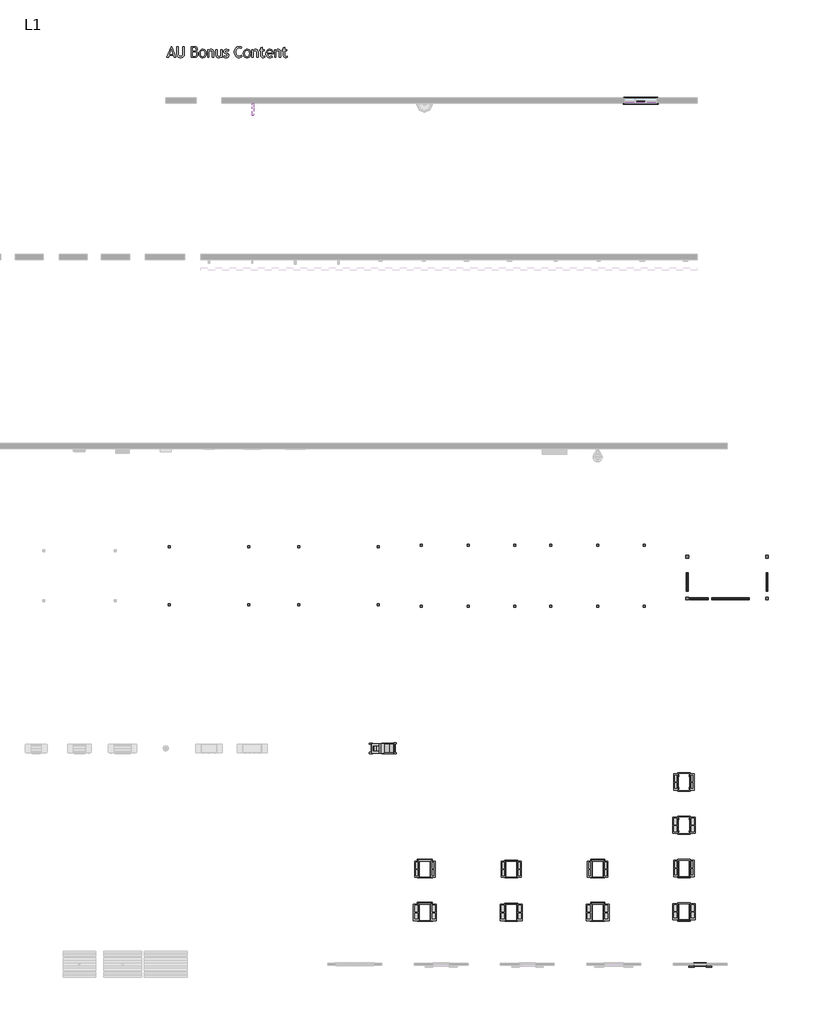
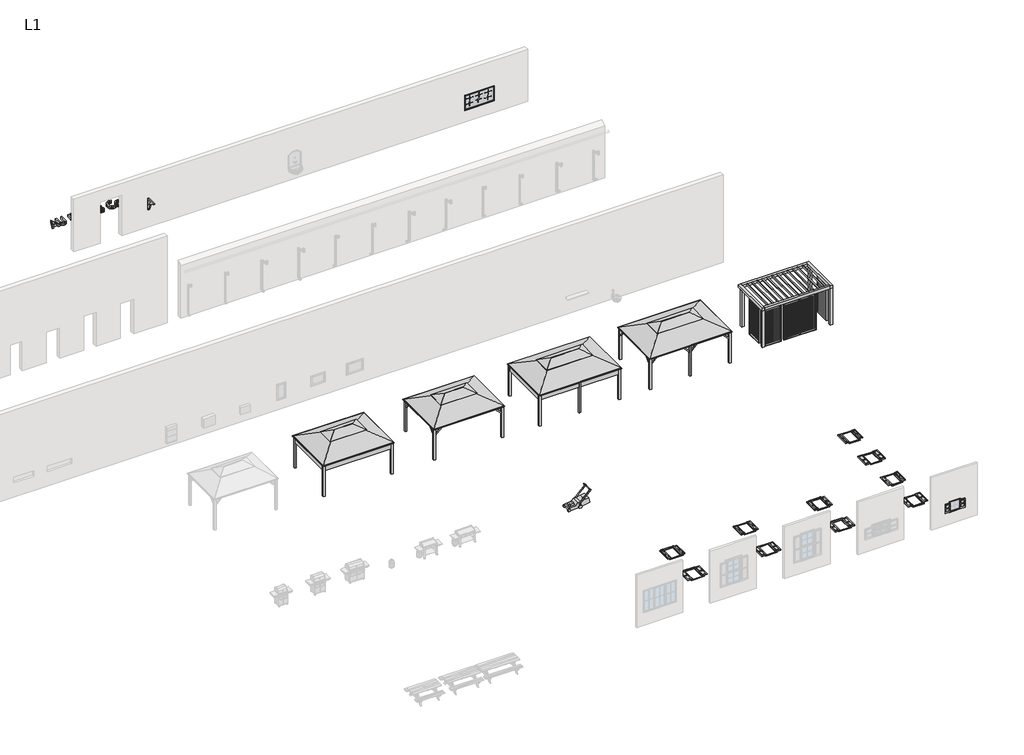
# One storey, part 3 of 3: 27 proxies, 1 geographic element.
"""IFC4 building model written with IfcOpenShell, lengths in millimetres."""

from ifc_helpers import new_model, si_unit, origin, origin_with_axes, place, context, project, spatial, polyline, outline, extrude, transform, mapped, element, save
from components import generic_models_1c49636c, generic_models_a0dbac26, proxy_d6f00f2b, proxy_496701cc, corbel2_corbel2_907cff46, manual_width_d89d13d8, manual_width_5ed0646b, muntin_pattern_2x2_muntin_pattern_2x2_6dbbc680, muntin_pattern_2x2_muntin_pattern_2x2_7c8e65e2, pergola_modern_pergola_2576f8b5, shutters_trim_window_exterior_brick_mould_colonial_manual_04c3bd9f, shutters_trim_window_exterior_brick_mould_colonial_standard_74fb2969, shutters_trim_window_exterior_flat_picture_frame_a63c4597, shutters_trim_window_exterior_flat_picture_frame_manual_0c29e27e, shutters_trim_window_exterior_flat_with_sill_dd266633, shutters_trim_window_exterior_flat_with_sill_b35a88a1, shutters_trim_window_exterior_flat_with_sill_manual_width_7cc3b3d1, standard_f57f7093, standard_7dc51323, trim_window_exterior_flat_with_sill_3c945769, trim_window_interior_flat_picture_frame_0edfbaa2, trim_window_interior_flat1_picture_frame_cb1a8cf6, geographic_element_e14939d7

model = new_model("IFC4")

# Units and contexts
model_context = context("Model", 3, world=origin())
ifc_project = project(units=[si_unit("LENGTHUNIT", "METRE", prefix="MILLI")], contexts=[model_context])

# Site, building, storey
site = spatial("IfcSite", under=ifc_project)
building = spatial("IfcBuilding", under=site)
storey = spatial("IfcBuildingStorey", under=building, Name="L1", Elevation=0.0)

# Proxies
placement = place(None, origin())
element("IfcBuildingElementProxy", 1, Name="24\" Trebuchet MS", ObjectType="24\" Trebuchet MS", at=placement, inside=storey, context=model_context, shape_type="SweptSolid", body=[
    extrude(outline(polyline([(2042.8025535, 25700.183374), (2000.693888, 25828.0073074), (1777.3348793, 25828.0073074), (1733.8947144, 25700.183374), (1638.0267644, 25700.183374), (1883.0226368, 26317.9990522), (1904.3266257, 26317.9990522), (2138.6705036, 25700.183374), (2042.8025535, 25700.183374)]), holes=[polyline([(1888.348634, 26158.2191354), (1798.6388682, 25891.9192741), (1976.8933379, 25891.9192741), (1888.348634, 26158.2191354)])]), origin_with_axes(), (0.0, 0.0, 1.0), 152.4),
    extrude(outline(polyline([(2202.5824703, 26307.3470577), (2287.7984259, 26307.3470577), (2287.7984259, 25891.4199618), (2289.9621123, 25864.8575909), (2296.4531714, 25840.7605742), (2307.2716033, 25819.1289116), (2322.4174079, 25799.9626032), (2341.1208122, 25784.2706759), (2362.6120432, 25773.0621563), (2386.8911009, 25766.3370446), (2413.9579852, 25764.0953407), (2442.4811969, 25766.2746305), (2467.8004884, 25772.8125002), (2489.9158597, 25783.7089496), (2508.8273108, 25798.9639788), (2523.9731154, 25817.943045), (2534.7915473, 25840.0116058), (2541.2826064, 25865.1696611), (2543.4462928, 25893.4172108), (2543.4462928, 26307.3470577), (2628.6622484, 26307.3470577), (2628.6622484, 25884.7624653), (2625.0734416, 25841.2702887), (2614.3070215, 25802.8336486), (2596.3629879, 25769.4525449), (2571.2413408, 25741.1269776), (2539.9303024, 25718.5539035), (2503.4180949, 25702.430279), (2461.7047182, 25692.7561044), (2414.7901723, 25689.5313795), (2366.7105645, 25692.6936904), (2324.4978756, 25702.1806229), (2288.1521054, 25717.9921772), (2257.6732541, 25740.1283532), (2233.5710362, 25768.1730573), (2216.3551663, 25801.7101961), (2206.0256443, 25840.7397695), (2202.5824703, 25885.2617776), (2202.5824703, 26307.3470577)])), origin_with_axes(), (0.0, 0.0, 1.0), 152.4),
    extrude(outline(polyline([(3184.7296462, 25700.183374), (3012.1340486, 25700.183374), (3012.1340486, 26312.6730549), (3173.2454647, 26317.9990522), (3216.113501, 26315.564905), (3253.8427821, 26308.2624635), (3286.4333081, 26296.0917276), (3313.885079, 26279.0526974), (3335.6571731, 26257.4782477), (3351.2086689, 26231.7012534), (3360.5395664, 26201.7217143), (3363.6498655, 26167.5396305), (3361.574599, 26146.7869655), (3355.3487995, 26126.970511), (3344.9724671, 26108.090267), (3330.4456016, 26090.1462333), (3295.5145495, 26061.727045), (3276.7539323, 26052.4169522), (3257.129921, 26046.3731936), (3290.8699054, 26036.116488), (3319.6895837, 26022.9887371), (3343.5889561, 26006.9899407), (3362.5680223, 25988.120099), (3377.0220715, 25965.9735207), (3387.3463923, 25940.1445146), (3393.5409847, 25910.6330807), (3395.6058489, 25877.4392191), (3391.9546281, 25839.0389872), (3381.0009659, 25804.7268742), (3362.7448621, 25774.5028802), (3337.1863168, 25748.3670051), (3305.7504504, 25727.2866665), (3269.8623831, 25712.2292817), (3229.5221151, 25703.1948509), (3184.7296462, 25700.183374)]), holes=[polyline([(3097.3500042, 26243.435091), (3097.3500042, 26075.499741), (3161.5948458, 26073.0031798), (3188.9790014, 26074.4439036), (3212.7119363, 26078.7660752), (3232.7936505, 26085.9696945), (3249.2241439, 26096.0547615), (3262.0034165, 26109.0212762), (3271.1314684, 26124.8692387), (3276.6082995, 26143.5986489), (3278.4339099, 26165.2095067), (3276.7565329, 26184.2067771), (3271.7244017, 26200.6710781), (3263.3375164, 26214.6024097), (3251.595877, 26226.0007719), (3236.4994835, 26234.8661648), (3218.0483359, 26241.1985882), (3171.0817783, 26246.264527), (3097.3500042, 26243.435091)]), polyline([(3097.3500042, 26007.0939641), (3097.3500042, 25768.256276), (3162.2605954, 25764.0953407), (3198.1954732, 25765.9781639), (3228.9395841, 25771.6266336), (3254.4929283, 25781.0407498), (3274.8555055, 25794.2205125), (3290.4018002, 25811.5091988), (3301.5062963, 25833.2500859), (3308.168994, 25859.4431738), (3310.3898933, 25890.0884625), (3308.2730174, 25918.5544614), (3301.9223899, 25943.0363646), (3291.3380106, 25963.5341723), (3276.5198797, 25980.0478844), (3256.7502357, 25992.7543407), (3231.3113173, 26001.8303809), (3200.2031245, 26007.276005), (3163.4256573, 26009.0912131), (3097.3500042, 26007.0939641)])]), origin_with_axes(), (0.0, 0.0, 1.0), 152.4),
    extrude(outline(polyline([(3459.5178156, 25924.8738819), (3463.0025989, 25974.6958814), (3473.456949, 26019.4727467), (3490.8808657, 26059.204478), (3515.2743491, 26093.8910751), (3545.3579115, 26122.0346015), (3579.8520654, 26142.1371203), (3618.7568108, 26154.1986316), (3662.0721476, 26158.2191354), (3707.4731532, 26154.3546667), (3747.4753453, 26142.7612606), (3782.0787238, 26123.4389172), (3811.2832886, 26096.3876363), (3834.4753019, 26062.4812145), (3851.0410257, 26022.5934482), (3860.98046, 25976.7243373), (3864.2936048, 25924.8738819), (3860.8972413, 25873.1638581), (3850.7081509, 25827.2167297), (3833.7263336, 25787.0324967), (3809.9517893, 25752.6111591), (3780.3311309, 25725.0137556), (3745.8109712, 25705.3013244), (3706.3913101, 25693.4738657), (3662.0721476, 25689.5313795), (3616.9312004, 25693.5102739), (3577.0434341, 25705.4469572), (3542.4088486, 25725.3414292), (3513.027444, 25753.1936901), (3489.6169816, 25787.7970686), (3472.8952227, 25827.9448933), (3462.8621674, 25873.6371645), (3459.5178156, 25924.8738819)]), holes=[polyline([(3544.7337712, 25924.8738819), (3546.5671833, 25884.6948501), (3552.0674197, 25849.8730225), (3561.2344804, 25820.4083992), (3574.0683653, 25796.3009801), (3590.5690745, 25777.5507653), (3610.7366079, 25764.1577547), (3634.5709656, 25756.1219483), (3662.0721476, 25753.4433462), (3687.97397, 25756.3143916), (3710.9215284, 25764.9275277), (3730.9148227, 25779.2827546), (3747.9538529, 25799.3800723), (3761.5705137, 25824.4497077), (3771.2967001, 25853.7218877), (3777.1324119, 25887.1966125), (3779.0776491, 25924.8738819), (3777.2494382, 25964.5848085), (3771.7648053, 25999.0009449), (3762.6237505, 26028.122291), (3749.8262738, 26051.948847), (3733.3723751, 26070.4806127), (3713.2620545, 26083.7175882), (3689.495312, 26091.6597736), (3662.0721476, 26094.3071687), (3636.7008444, 26091.488135), (3614.0133445, 26083.0310339), (3594.0096479, 26068.9358655), (3576.6897546, 26049.2026297), (3562.7090118, 26024.5178808), (3552.722767, 25995.5681732), (3546.7310202, 25962.3535069), (3544.7337712, 25924.8738819)])]), origin_with_axes(), (0.0, 0.0, 1.0), 152.4),
    extrude(outline(polyline([(4215.8094217, 25700.183374), (4215.8094217, 25963.986674), (4214.4207095, 25997.4718011), (4210.254573, 26025.5269076), (4203.3110122, 26048.1519935), (4193.590027, 26065.3470588), (4180.6027076, 26078.0171068), (4163.860144, 26087.0671412), (4143.3623364, 26092.4971618), (4119.1092845, 26094.3071687), (4090.4820494, 26090.1878427), (4060.523315, 26077.8298647), (4033.435626, 26059.4385306), (4013.4215271, 26037.2191359), (4013.4215271, 25700.183374), (3938.8575659, 25700.183374), (3938.8575659, 26147.5671409), (3992.6168504, 26147.5671409), (4017.5824624, 26090.1462333), (4040.0619155, 26119.928128), (4068.7203577, 26141.2009099), (4103.5577887, 26153.964579), (4144.5742088, 26158.2191354), (4178.7458902, 26155.410504), (4208.3613474, 26146.98461), (4233.4205805, 26132.9414532), (4253.9235893, 26113.2810338), (4269.870374, 26088.0033516), (4281.2609344, 26057.1084068), (4288.0952707, 26020.5961992), (4290.3733828, 25978.466729), (4290.3733828, 25700.183374), (4215.8094217, 25700.183374)])), origin_with_axes(), (0.0, 0.0, 1.0), 152.4),
    extrude(outline(polyline([(4482.109283, 26147.5671409), (4482.109283, 25858.465354), (4483.5708115, 25833.8508209), (4487.9553971, 25812.5182256), (4495.2630398, 25794.467568), (4505.4937395, 25779.6988482), (4518.6474963, 25768.2120661), (4534.7243102, 25760.0072217), (4553.7241812, 25755.0843151), (4575.6471092, 25753.4433462), (4614.718292, 25759.1646323), (4650.3775078, 25776.3284905), (4678.54704, 25800.9820324), (4695.149172, 25829.1723693), (4695.149172, 26147.5671409), (4769.7131331, 26147.5671409), (4769.7131331, 25700.183374), (4695.149172, 25700.183374), (4695.149172, 25761.7652169), (4674.8230029, 25736.404316), (4640.8073565, 25712.5829612), (4600.4254791, 25695.2942749), (4561.0006169, 25689.5313795), (4525.9811449, 25692.1839758), (4495.3202526, 25700.1417646), (4469.0179402, 25713.404746), (4447.0742075, 25731.9729199), (4429.78032, 25755.4197905), (4417.4275432, 25783.3188619), (4410.0158771, 25815.6701341), (4407.5453218, 25852.4736071), (4407.5453218, 26147.5671409), (4482.109283, 26147.5671409)])), origin_with_axes(), (0.0, 0.0, 1.0), 152.4),
    extrude(outline(polyline([(4854.9290888, 25723.4846118), (4882.0583871, 25796.051324), (4940.3114818, 25764.0953407), (4964.6945628, 25756.1063448), (4985.915333, 25753.4433462), (5017.153555, 25757.4274418), (5039.4665708, 25769.3797285), (5052.8543802, 25789.3002064), (5057.3169833, 25817.1888755), (5052.9480012, 25839.1898211), (5039.8410549, 25859.5888066), (5017.9961444, 25878.3858319), (4987.4132697, 25895.5808972), (4914.7633388, 25934.0279397), (4882.3080432, 25963.9034553), (4870.3037448, 25981.1505323), (4861.7530227, 25999.4378431), (4856.6350722, 26018.9526298), (4854.9290888, 26039.8821345), (4857.4204488, 26066.2312575), (4864.8945289, 26089.522093), (4877.351329, 26109.7546411), (4894.7908492, 26126.9289017), (4916.2456721, 26140.6183789), (4940.74838, 26150.396577), (4968.2989731, 26156.2634958), (4998.8974513, 26158.2191354), (5024.7056527, 26156.2530934), (5053.6969696, 26150.3549676), (5121.22895, 26126.7624643), (5099.0927741, 26051.6991909), (5075.9267666, 26070.3401812), (5052.6983451, 26083.6551742), (5029.4075096, 26091.6441701), (5006.05426, 26094.3071687), (4980.4437031, 26090.8535923), (4959.2021282, 26080.4928634), (4944.9093153, 26064.8893559), (4940.1450444, 26045.707444), (4943.1513201, 26024.8403533), (4952.1701475, 26006.6778706), (4967.2015264, 25991.2199958), (4988.2454568, 25978.466729), (5044.1684277, 25951.6703055), (5088.607217, 25925.8517017), (5119.0652637, 25896.6627404), (5129.3323716, 25880.2530516), (5136.6660201, 25861.8981257), (5142.532939, 25819.3525619), (5139.9375555, 25790.548487), (5132.1514053, 25765.0523558), (5119.1744882, 25742.8641681), (5101.0068043, 25723.9839241), (5078.2308846, 25708.9109358), (5051.4292598, 25698.1445156), (5020.6019302, 25691.6846635), (4985.7488956, 25689.5313795), (4951.4835932, 25691.6534565), (4918.2585245, 25698.0196876), (4886.0736897, 25708.6300727), (4854.9290888, 25723.4846118)])), origin_with_axes(), (0.0, 0.0, 1.0), 152.4),
    extrude(outline(polyline([(5877.5205561, 26286.0430688), (5848.7268836, 26214.8078559), (5825.217599, 26227.3322713), (5795.7997862, 26236.2782822), (5760.4734452, 26241.6458888), (5719.2385761, 26243.435091), (5679.9281395, 26239.1285229), (5644.7162242, 26226.2088187), (5613.6028303, 26204.6759784), (5586.5879577, 26174.5300019), (5564.7430472, 26137.5912985), (5549.1395397, 26095.6802773), (5539.7774352, 26048.7969385), (5536.6567337, 25996.9412819), (5539.8190445, 25947.4729619), (5549.3059771, 25902.924948), (5565.1175313, 25863.2972402), (5587.2537073, 25828.5898383), (5614.393408, 25800.3734956), (5645.2155365, 25780.2189651), (5679.7200927, 25768.1262468), (5717.9070768, 25764.0953407), (5759.0691295, 25768.0794362), (5795.1756459, 25780.031723), (5826.2266258, 25799.9522009), (5852.2220693, 25827.84087), (5898.824545, 25764.0953407), (5859.6597412, 25731.4736077), (5815.2313542, 25708.1723698), (5765.539384, 25694.1916271), (5710.5838306, 25689.5313795), (5653.532206, 25694.8989861), (5602.8780195, 25711.0018058), (5558.621271, 25737.8398387), (5520.7619607, 25775.4130848), (5490.4339433, 25821.7763067), (5468.7710737, 25874.9842673), (5455.773352, 25935.0369665), (5451.440778, 26001.9344043), (5456.1062268, 26067.0530422), (5470.102573, 26126.4295894), (5493.4298167, 26180.0640459), (5526.0879579, 26227.9564116), (5566.1317593, 26267.3500668), (5611.6159837, 26295.488392), (5662.540631, 26312.3713871), (5718.9057012, 26317.9990522), (5766.8292739, 26316.0018032), (5809.2396073, 26310.0100563), (5846.1367014, 26300.0238115), (5877.5205561, 26286.0430688)])), origin_with_axes(), (0.0, 0.0, 1.0), 152.4),
    extrude(outline(polyline([(5962.7365117, 25924.8738819), (5966.2212951, 25974.6958814), (5976.6756451, 26019.4727467), (5994.0995618, 26059.204478), (6018.4930452, 26093.8910751), (6048.5766076, 26122.0346015), (6083.0707615, 26142.1371203), (6121.9755069, 26154.1986316), (6165.2908437, 26158.2191354), (6210.6918494, 26154.3546667), (6250.6940414, 26142.7612606), (6285.2974199, 26123.4389172), (6314.5019847, 26096.3876363), (6337.6939981, 26062.4812145), (6354.2597219, 26022.5934482), (6364.1991561, 25976.7243373), (6367.5123009, 25924.8738819), (6364.1159374, 25873.1638581), (6353.926847, 25827.2167297), (6336.9450297, 25787.0324967), (6313.1704854, 25752.6111591), (6283.549827, 25725.0137556), (6249.0296673, 25705.3013244), (6209.6100062, 25693.4738657), (6165.2908437, 25689.5313795), (6120.1498965, 25693.5102739), (6080.2621302, 25705.4469572), (6045.6275447, 25725.3414292), (6016.2461401, 25753.1936901), (5992.8356777, 25787.7970686), (5976.1139188, 25827.9448933), (5966.0808635, 25873.6371645), (5962.7365117, 25924.8738819)]), holes=[polyline([(6047.9524673, 25924.8738819), (6049.7858795, 25884.6948501), (6055.2861159, 25849.8730225), (6064.4531765, 25820.4083992), (6077.2870614, 25796.3009801), (6093.7877706, 25777.5507653), (6113.9553041, 25764.1577547), (6137.7896618, 25756.1219483), (6165.2908437, 25753.4433462), (6191.1926662, 25756.3143916), (6214.1402245, 25764.9275277), (6234.1335188, 25779.2827546), (6251.172549, 25799.3800723), (6264.7892099, 25824.4497077), (6274.5153962, 25853.7218877), (6280.351108, 25887.1966125), (6282.2963453, 25924.8738819), (6280.4681343, 25964.5848085), (6274.9835014, 25999.0009449), (6265.8424466, 26028.122291), (6253.0449699, 26051.948847), (6236.5910712, 26070.4806127), (6216.4807506, 26083.7175882), (6192.7140081, 26091.6597736), (6165.2908437, 26094.3071687), (6139.9195405, 26091.488135), (6117.2320406, 26083.0310339), (6097.228344, 26068.9358655), (6079.9084507, 26049.2026297), (6065.927708, 26024.5178808), (6055.9414632, 25995.5681732), (6049.9497163, 25962.3535069), (6047.9524673, 25924.8738819)])]), origin_with_axes(), (0.0, 0.0, 1.0), 152.4),
    extrude(outline(polyline([(6719.0281178, 25700.183374), (6719.0281178, 25963.986674), (6717.6394056, 25997.4718011), (6713.4732691, 26025.5269076), (6706.5297083, 26048.1519935), (6696.8087231, 26065.3470588), (6683.8214037, 26078.0171068), (6667.0788402, 26087.0671412), (6646.5810325, 26092.4971618), (6622.3279807, 26094.3071687), (6593.7007456, 26090.1878427), (6563.7420112, 26077.8298647), (6536.6543222, 26059.4385306), (6516.6402232, 26037.2191359), (6516.6402232, 25700.183374), (6442.076262, 25700.183374), (6442.076262, 26147.5671409), (6495.8355465, 26147.5671409), (6520.8011585, 26090.1462333), (6543.2806117, 26119.928128), (6571.9390538, 26141.2009099), (6606.7764849, 26153.964579), (6647.7929049, 26158.2191354), (6681.9645863, 26155.410504), (6711.5800435, 26146.98461), (6736.6392766, 26132.9414532), (6757.1422854, 26113.2810338), (6773.0890701, 26088.0033516), (6784.4796306, 26057.1084068), (6791.3139669, 26020.5961992), (6793.5920789, 25978.466729), (6793.5920789, 25700.183374), (6719.0281178, 25700.183374)])), origin_with_axes(), (0.0, 0.0, 1.0), 152.4),
    extrude(outline(polyline([(6942.7200013, 26083.6551742), (6889.460029, 26083.6551742), (6889.460029, 26147.5671409), (6942.7200013, 26147.5671409), (6942.7200013, 26243.9344032), (7017.2839624, 26275.3910743), (7017.2839624, 26147.5671409), (7134.4559014, 26147.5671409), (7134.4559014, 26083.6551742), (7017.2839624, 26083.6551742), (7017.2839624, 25858.7982288), (7021.8609913, 25809.948848), (7027.5822774, 25791.7031466), (7035.5920779, 25777.5767711), (7046.140049, 25767.0183977), (7059.4758467, 25759.4767024), (7075.5994711, 25754.9516853), (7094.5109222, 25753.4433462), (7124.3032192, 25756.1063448), (7155.0941406, 25764.0953407), (7166.4118848, 25700.8491236), (7117.0631917, 25692.3608155), (7063.2206885, 25689.5313795), (7038.8324063, 25692.007136), (7016.4309707, 25699.4344056), (6996.0163817, 25711.8131882), (6977.5886394, 25729.1434839), (6962.3336102, 25750.239426), (6951.4371608, 25773.9151481), (6944.8992912, 25800.17065), (6942.7200013, 25829.0059319), (6942.7200013, 26083.6551742)])), origin_with_axes(), (0.0, 0.0, 1.0), 152.4),
    extrude(outline(polyline([(7639.4270134, 25913.223263), (7315.5398071, 25913.223263), (7318.2236104, 25875.6708216), (7326.2750202, 25842.7370185), (7339.6940367, 25814.4218535), (7358.4806597, 25790.7253268), (7378.8796452, 25774.4144603), (7401.9624339, 25762.7638414), (7427.729026, 25755.77347), (7456.1794213, 25753.4433462), (7488.8011543, 25756.1063448), (7518.5934513, 25764.0953407), (7545.5563123, 25777.4103337), (7569.6897372, 25796.051324), (7603.1436573, 25742.7913518), (7579.7592007, 25724.3167989), (7546.5549367, 25708.5052446), (7496.0411818, 25694.2748458), (7440.0349922, 25689.5313795), (7399.2786306, 25693.1409909), (7361.7261893, 25703.9698251), (7327.3776681, 25722.0178821), (7296.2330671, 25747.2851619), (7267.3977853, 25781.8937416), (7246.8011554, 25821.9739511), (7234.4431774, 25867.5257907), (7230.3238515, 25918.5492602), (7234.5576032, 25971.7052091), (7247.2588583, 26019.327114), (7268.4276168, 26061.4149749), (7298.0638787, 26097.9687918), (7329.7494012, 26124.3283171), (7364.2227505, 26143.1565495), (7401.4839264, 26154.4534889), (7441.5329289, 26158.2191354), (7487.1783895, 26154.7759614), (7527.5810716, 26144.4464394), (7562.7409752, 26127.2305695), (7592.6581002, 26103.1283516), (7615.8865217, 26074.5011165), (7632.4782514, 26041.5465086), (7642.4332891, 26004.2645281), (7645.7516351, 25962.6551747), (7644.1704797, 25936.898985), (7639.4270134, 25913.223263)]), holes=[polyline([(7447.5246758, 26094.3071687), (7421.2483692, 26091.9354355), (7397.1773583, 26084.8202361), (7375.3116431, 26072.9615704), (7355.6512237, 26056.3594384), (7339.8500718, 26037.1983312), (7327.897785, 26015.8319283), (7319.7943635, 25992.2602296), (7315.5398071, 25966.4832352), (7571.1876739, 25966.4832352), (7569.252839, 25992.0105735), (7563.4483342, 26015.3326161), (7553.7741595, 26036.4493629), (7540.230315, 26055.360814), (7521.6413364, 26072.3998441), (7499.9940704, 26084.57058), (7475.2885168, 26091.8730215), (7447.5246758, 26094.3071687)])]), origin_with_axes(), (0.0, 0.0, 1.0), 152.4),
    extrude(outline(polyline([(7997.267452, 25700.183374), (7997.267452, 25963.986674), (7995.8787398, 25997.4718011), (7991.7126033, 26025.5269076), (7984.7690425, 26048.1519935), (7975.0480573, 26065.3470588), (7962.0607379, 26078.0171068), (7945.3181744, 26087.0671412), (7924.8203667, 26092.4971618), (7900.5673148, 26094.3071687), (7871.9400798, 26090.1878427), (7841.9813454, 26077.8298647), (7814.8936563, 26059.4385306), (7794.8795574, 26037.2191359), (7794.8795574, 25700.183374), (7720.3155962, 25700.183374), (7720.3155962, 26147.5671409), (7774.0748807, 26147.5671409), (7799.0404927, 26090.1462333), (7821.5199459, 26119.928128), (7850.178388, 26141.2009099), (7885.015819, 26153.964579), (7926.0322391, 26158.2191354), (7960.2039205, 26155.410504), (7989.8193777, 26146.98461), (8014.8786108, 26132.9414532), (8035.3816196, 26113.2810338), (8051.3284043, 26088.0033516), (8062.7189648, 26057.1084068), (8069.553301, 26020.5961992), (8071.8314131, 25978.466729), (8071.8314131, 25700.183374), (7997.267452, 25700.183374)])), origin_with_axes(), (0.0, 0.0, 1.0), 152.4),
    extrude(outline(polyline([(8220.9593355, 26083.6551742), (8167.6993632, 26083.6551742), (8167.6993632, 26147.5671409), (8220.9593355, 26147.5671409), (8220.9593355, 26243.9344032), (8295.5232966, 26275.3910743), (8295.5232966, 26147.5671409), (8412.6952356, 26147.5671409), (8412.6952356, 26083.6551742), (8295.5232966, 26083.6551742), (8295.5232966, 25858.7982288), (8300.1003255, 25809.948848), (8305.8216116, 25791.7031466), (8313.8314121, 25777.5767711), (8324.3793832, 25767.0183977), (8337.7151809, 25759.4767024), (8353.8388053, 25754.9516853), (8372.7502564, 25753.4433462), (8402.5425534, 25756.1063448), (8433.3334748, 25764.0953407), (8444.6512189, 25700.8491236), (8395.3025259, 25692.3608155), (8341.4600227, 25689.5313795), (8317.0717405, 25692.007136), (8294.6703049, 25699.4344056), (8274.2557159, 25711.8131882), (8255.8279736, 25729.1434839), (8240.5729444, 25750.239426), (8229.676495, 25773.9151481), (8223.1386253, 25800.17065), (8220.9593355, 25829.0059319), (8220.9593355, 26083.6551742)])), origin_with_axes(), (0.0, 0.0, 1.0), 152.4),
])
generic_models_shape = generic_models_1c49636c(model_context)
element("IfcBuildingElementProxy", 2, Name="Gazebo : 15'-6\" x 11'-6\" (Braces)", ObjectType="Gazebo : 15'-6\" x 11'-6\" (Braces)", at=placement, inside=storey, context=model_context, shape_type="MappedRepresentation", body=[
    mapped(generic_models_shape, transform((11333.7862497, -3562.6647312, 0.0), x_axis=(1.0, 0.0, 0.0), y_axis=(0.0, 1.0, 0.0), z_axis=(0.0, 0.0, 1.0))),
])
generic_models_2_shape = generic_models_a0dbac26(model_context)
element("IfcBuildingElementProxy", 3, Name="Gazebo : 18'-0\" x 12'-0\" (Middle Columns - Braces)", ObjectType="Gazebo : 18'-0\" x 12'-0\" (Middle Columns - Braces)", at=placement, inside=storey, context=model_context, shape_type="MappedRepresentation", body=[
    mapped(generic_models_2_shape, transform((25964.1862497, -3562.6647312, 0.0), x_axis=(1.0, 0.0, 0.0), y_axis=(0.0, 1.0, 0.0), z_axis=(0.0, 0.0, 1.0))),
])
proxy_shape = proxy_d6f00f2b(model_context)
element("IfcBuildingElementProxy", 4, Name="Gazebo : 15'-6\" x 11'-6\" (Arched)", ObjectType="Gazebo : 15'-6\" x 11'-6\" (Arched)", at=placement, inside=storey, context=model_context, shape_type="MappedRepresentation", body=[
    mapped(proxy_shape, transform((4018.5862497, -3562.6647312, 0.0), x_axis=(1.0, 0.0, 0.0), y_axis=(0.0, 1.0, 0.0), z_axis=(0.0, 0.0, 1.0))),
])
proxy_2_shape = proxy_496701cc(model_context)
element("IfcBuildingElementProxy", 5, Name="Gazebo : 18'-0\" x 12'-0\" (Middle Columns - Arched)", ObjectType="Gazebo : 18'-0\" x 12'-0\" (Middle Columns - Arched)", at=placement, inside=storey, context=model_context, shape_type="MappedRepresentation", body=[
    mapped(proxy_2_shape, transform((18648.9862497, -3562.6647312, 0.0), x_axis=(1.0, 0.0, 0.0), y_axis=(0.0, 1.0, 0.0), z_axis=(0.0, 0.0, 1.0))),
])
corbel2_corbel2_shape = corbel2_corbel2_907cff46(model_context)
element("IfcBuildingElementProxy", 6, Name="Corbel2 : Corbel2", ObjectType="Corbel2 : Corbel2", at=placement, inside=storey, context=model_context, shape_type="MappedRepresentation", body=[
    mapped(corbel2_corbel2_shape, transform((6501.4362497, 22764.4352688, 1219.2), x_axis=(1.0, 0.0, 0.0), y_axis=(0.0, 1.0, 0.0), z_axis=(0.0, 0.0, 1.0))),
])
manual_width_shape = manual_width_d89d13d8(model_context)
element("IfcBuildingElementProxy", 7, Name="Shutters-Trim-Window-Exterior-Flat-Backband-Colonial : Manual Width", ObjectType="Shutters-Trim-Window-Exterior-Flat-Backband-Colonial : Manual Width", at=placement, inside=storey, context=model_context, shape_type="MappedRepresentation", body=[
    mapped(manual_width_shape, transform((16210.5862497, -19685.3147312, 0.0), x_axis=(1.0, 0.0, 0.0), y_axis=(0.0, 1.0, 0.0), z_axis=(0.0, 0.0, 1.0))),
])
manual_width_2_shape = manual_width_5ed0646b(model_context)
element("IfcBuildingElementProxy", 8, Name="Shutters-Trim-Window-Exterior-Flat-Decorative_Drip_Cap-Cape_Cod : Manual Width", ObjectType="Shutters-Trim-Window-Exterior-Flat-Decorative_Drip_Cap-Cape_Cod : Manual Width", at=placement, inside=storey, context=model_context, shape_type="MappedRepresentation", body=[
    mapped(manual_width_2_shape, transform((25964.1862497, -19685.3147312, 0.0), x_axis=(1.0, 0.0, 0.0), y_axis=(0.0, 1.0, 0.0), z_axis=(0.0, 0.0, 1.0))),
])
muntin_pattern_2x2_muntin_pattern_2x2_shape = muntin_pattern_2x2_muntin_pattern_2x2_6dbbc680(model_context)
element("IfcBuildingElementProxy", 9, Name="Muntin Pattern_2x2 : Muntin Pattern_2x2", ObjectType="Muntin Pattern_2x2 : Muntin Pattern_2x2", at=placement, inside=storey, context=model_context, shape_type="MappedRepresentation", body=[
    mapped(muntin_pattern_2x2_muntin_pattern_2x2_shape, transform((27794.044583, 23142.2602688, 1393.825), x_axis=(-1.0, 0.0, 0.0), y_axis=(0.0, -1.0, 0.0), z_axis=(0.0, 0.0, 1.0))),
])
element("IfcBuildingElementProxy", 10, Name="Muntin Pattern_2x2 : Muntin Pattern_2x2", ObjectType="Muntin Pattern_2x2 : Muntin Pattern_2x2", at=placement, inside=storey, context=model_context, shape_type="MappedRepresentation", body=[
    mapped(muntin_pattern_2x2_muntin_pattern_2x2_shape, transform((27794.044583, 23186.7102688, 990.6), x_axis=(-1.0, 0.0, 0.0), y_axis=(0.0, -1.0, 0.0), z_axis=(0.0, 0.0, 1.0))),
])
element("IfcBuildingElementProxy", 11, Name="Muntin Pattern_2x2 : Muntin Pattern_2x2", ObjectType="Muntin Pattern_2x2 : Muntin Pattern_2x2", at=placement, inside=storey, context=model_context, shape_type="MappedRepresentation", body=[
    mapped(muntin_pattern_2x2_muntin_pattern_2x2_shape, transform((28402.5862497, 23142.2602688, 1393.825), x_axis=(-1.0, 0.0, 0.0), y_axis=(0.0, -1.0, 0.0), z_axis=(0.0, 0.0, 1.0))),
])
element("IfcBuildingElementProxy", 12, Name="Muntin Pattern_2x2 : Muntin Pattern_2x2", ObjectType="Muntin Pattern_2x2 : Muntin Pattern_2x2", at=placement, inside=storey, context=model_context, shape_type="MappedRepresentation", body=[
    mapped(muntin_pattern_2x2_muntin_pattern_2x2_shape, transform((28402.5862497, 23262.9102688, 990.6), x_axis=(-1.0, 0.0, 0.0), y_axis=(0.0, -1.0, 0.0), z_axis=(0.0, 0.0, 1.0))),
])
muntin_pattern_2x2_muntin_pattern_2x2_2_shape = muntin_pattern_2x2_muntin_pattern_2x2_7c8e65e2(model_context)
element("IfcBuildingElementProxy", 13, Name="Muntin Pattern_2x2 : Muntin Pattern_2x2", ObjectType="Muntin Pattern_2x2 : Muntin Pattern_2x2", at=placement, inside=storey, context=model_context, shape_type="MappedRepresentation", body=[
    mapped(muntin_pattern_2x2_muntin_pattern_2x2_2_shape, transform((29011.1279164, 23142.2602688, 1393.825), x_axis=(1.0, 0.0, 0.0), y_axis=(0.0, 1.0, 0.0), z_axis=(0.0, 0.0, 1.0))),
])
element("IfcBuildingElementProxy", 14, Name="Muntin Pattern_2x2 : Muntin Pattern_2x2", ObjectType="Muntin Pattern_2x2 : Muntin Pattern_2x2", at=placement, inside=storey, context=model_context, shape_type="MappedRepresentation", body=[
    mapped(muntin_pattern_2x2_muntin_pattern_2x2_2_shape, transform((29011.1279164, 23186.7102688, 990.6), x_axis=(1.0, 0.0, 0.0), y_axis=(0.0, 1.0, 0.0), z_axis=(0.0, 0.0, 1.0))),
])
pergola_modern_pergola_shape = pergola_modern_pergola_2576f8b5(model_context)
element("IfcBuildingElementProxy", 15, Name="Pergola Modern : Pergola", ObjectType="Pergola Modern : Pergola", at=placement, inside=storey, context=model_context, shape_type="MappedRepresentation", body=[
    mapped(pergola_modern_pergola_shape, transform((33279.3862497, -3562.6647312, 0.0), x_axis=(1.0, 0.0, 0.0), y_axis=(0.0, 1.0, 0.0), z_axis=(0.0, 0.0, 1.0))),
])
shutters_trim_window_exterior_brick_mould_colonial_manual_shape = shutters_trim_window_exterior_brick_mould_colonial_manual_04c3bd9f(model_context)
element("IfcBuildingElementProxy", 16, Name="Shutters-Trim-Window-Exterior-Brick_Mould-Colonial : Manual Width", ObjectType="Shutters-Trim-Window-Exterior-Brick_Mould-Colonial : Manual Width", at=placement, inside=storey, context=model_context, shape_type="MappedRepresentation", body=[
    mapped(shutters_trim_window_exterior_brick_mould_colonial_manual_shape, transform((21087.3862497, -19685.3147312, 0.0), x_axis=(1.0, 0.0, 0.0), y_axis=(0.0, 1.0, 0.0), z_axis=(0.0, 0.0, 1.0))),
])
shutters_trim_window_exterior_brick_mould_colonial_standard_shape = shutters_trim_window_exterior_brick_mould_colonial_standard_74fb2969(model_context)
element("IfcBuildingElementProxy", 17, Name="Shutters-Trim-Window-Exterior-Brick_Mould-Colonial : Standard", ObjectType="Shutters-Trim-Window-Exterior-Brick_Mould-Colonial : Standard", at=placement, inside=storey, context=model_context, shape_type="MappedRepresentation", body=[
    mapped(shutters_trim_window_exterior_brick_mould_colonial_standard_shape, transform((21087.3862497, -22123.7147312, 0.0), x_axis=(1.0, 0.0, 0.0), y_axis=(0.0, 1.0, 0.0), z_axis=(0.0, 0.0, 1.0))),
])
shutters_trim_window_exterior_flat_picture_frame_shape = shutters_trim_window_exterior_flat_picture_frame_a63c4597(model_context)
element("IfcBuildingElementProxy", 18, Name="Shutters-Trim-Window-Exterior-Flat : Picture Frame", ObjectType="Shutters-Trim-Window-Exterior-Flat : Picture Frame", at=placement, inside=storey, context=model_context, shape_type="MappedRepresentation", body=[
    mapped(shutters_trim_window_exterior_flat_picture_frame_shape, transform((30840.9862497, -17199.3323603, 0.0), x_axis=(1.0, 0.0, 0.0), y_axis=(0.0, 1.0, 0.0), z_axis=(0.0, 0.0, 1.0))),
])
shutters_trim_window_exterior_flat_picture_frame_manual_shape = shutters_trim_window_exterior_flat_picture_frame_manual_0c29e27e(model_context)
element("IfcBuildingElementProxy", 19, Name="Shutters-Trim-Window-Exterior-Flat : Picture Frame (Manual Width)", ObjectType="Shutters-Trim-Window-Exterior-Flat : Picture Frame (Manual Width)", at=placement, inside=storey, context=model_context, shape_type="MappedRepresentation", body=[
    mapped(shutters_trim_window_exterior_flat_picture_frame_manual_shape, transform((30840.9862497, -14760.9323603, 0.0), x_axis=(1.0, 0.0, 0.0), y_axis=(0.0, 1.0, 0.0), z_axis=(0.0, 0.0, 1.0))),
])
shutters_trim_window_exterior_flat_with_sill_shape = shutters_trim_window_exterior_flat_with_sill_dd266633(model_context)
element("IfcBuildingElementProxy", 20, Name="Shutters-Trim-Window-Exterior-Flat : with Sill", ObjectType="Shutters-Trim-Window-Exterior-Flat : with Sill", at=placement, inside=storey, context=model_context, shape_type="MappedRepresentation", body=[
    mapped(shutters_trim_window_exterior_flat_with_sill_shape, transform((30840.9862497, -22076.1323603, 0.0), x_axis=(1.0, 0.0, 0.0), y_axis=(0.0, 1.0, 0.0), z_axis=(0.0, 0.0, 1.0))),
])
shutters_trim_window_exterior_flat_with_sill_2_shape = shutters_trim_window_exterior_flat_with_sill_b35a88a1(model_context)
element("IfcBuildingElementProxy", 21, Name="Shutters-Trim-Window-Exterior-Flat : with Sill", ObjectType="Shutters-Trim-Window-Exterior-Flat : with Sill", at=placement, inside=storey, context=model_context, shape_type="MappedRepresentation", body=[
    mapped(shutters_trim_window_exterior_flat_with_sill_2_shape, transform((31755.3862497, -25571.7647312, 1524.0), x_axis=(-1.0, 0.0, 0.0), y_axis=(0.0, 0.0, -1.0), z_axis=(0.0, -1.0, 0.0))),
])
shutters_trim_window_exterior_flat_with_sill_manual_width_shape = shutters_trim_window_exterior_flat_with_sill_manual_width_7cc3b3d1(model_context)
element("IfcBuildingElementProxy", 22, Name="Shutters-Trim-Window-Exterior-Flat : with Sill (Manual Width)", ObjectType="Shutters-Trim-Window-Exterior-Flat : with Sill (Manual Width)", at=placement, inside=storey, context=model_context, shape_type="MappedRepresentation", body=[
    mapped(shutters_trim_window_exterior_flat_with_sill_manual_width_shape, transform((30840.9862497, -19637.7323603, 0.0), x_axis=(1.0, 0.0, 0.0), y_axis=(0.0, 1.0, 0.0), z_axis=(0.0, 0.0, 1.0))),
])
standard_shape = standard_f57f7093(model_context)
element("IfcBuildingElementProxy", 23, Name="Shutters-Trim-Window-Exterior-Flat-Decorative_Drip_Cap-Cape_Cod : Standard", ObjectType="Shutters-Trim-Window-Exterior-Flat-Decorative_Drip_Cap-Cape_Cod : Standard", at=placement, inside=storey, context=model_context, shape_type="MappedRepresentation", body=[
    mapped(standard_shape, transform((25964.1862497, -22123.7147312, 0.0), x_axis=(1.0, 0.0, 0.0), y_axis=(0.0, 1.0, 0.0), z_axis=(0.0, 0.0, 1.0))),
])
standard_2_shape = standard_7dc51323(model_context)
element("IfcBuildingElementProxy", 24, Name="Shutters-Trim-Window-Exterior-Flat-Backband-Colonial : Standard", ObjectType="Shutters-Trim-Window-Exterior-Flat-Backband-Colonial : Standard", at=placement, inside=storey, context=model_context, shape_type="MappedRepresentation", body=[
    mapped(standard_2_shape, transform((16210.5862497, -22123.7147312, 0.0), x_axis=(1.0, 0.0, 0.0), y_axis=(0.0, 1.0, 0.0), z_axis=(0.0, 0.0, 1.0))),
])
trim_window_exterior_flat_with_sill_shape = trim_window_exterior_flat_with_sill_3c945769(model_context)
element("IfcBuildingElementProxy", 25, Name="Trim-Window-Exterior-Flat : with Sill", ObjectType="Trim-Window-Exterior-Flat : with Sill", at=placement, inside=storey, context=model_context, shape_type="MappedRepresentation", body=[
    mapped(trim_window_exterior_flat_with_sill_shape, transform((28402.5862497, 23107.3352688, 1828.8), x_axis=(1.0, 0.0, 0.0), y_axis=(0.0, 0.0, 1.0), z_axis=(0.0, -1.0, 0.0))),
])
trim_window_interior_flat_picture_frame_shape = trim_window_interior_flat_picture_frame_0edfbaa2(model_context)
element("IfcBuildingElementProxy", 26, Name="Trim-Window-Interior-Flat : Picture Frame", ObjectType="Trim-Window-Interior-Flat : Picture Frame", at=placement, inside=storey, context=model_context, shape_type="MappedRepresentation", body=[
    mapped(trim_window_interior_flat_picture_frame_shape, transform((28402.5862497, 23412.1352688, 1828.8), x_axis=(-1.0, 0.0, 0.0), y_axis=(0.0, 0.0, 1.0), z_axis=(0.0, 1.0, 0.0))),
])
trim_window_interior_flat1_picture_frame_shape = trim_window_interior_flat1_picture_frame_cb1a8cf6(model_context)
element("IfcBuildingElementProxy", 27, Name="Trim-Window-Interior-Flat1 : Picture Frame", ObjectType="Trim-Window-Interior-Flat1 : Picture Frame", at=placement, inside=storey, context=model_context, shape_type="MappedRepresentation", body=[
    mapped(trim_window_interior_flat1_picture_frame_shape, transform((31755.3862497, -25444.7647312, 1524.0), x_axis=(1.0, 0.0, 0.0), y_axis=(0.0, 0.0, -1.0), z_axis=(0.0, 1.0, 0.0))),
])

# Geographic element
geographic_element_shape = geographic_element_e14939d7(model_context)
element("IfcGeographicElement", 28, ObjectType="Lawn Mower : Lawn Mower", at=placement, inside=storey, context=model_context, shape_type="MappedRepresentation", body=[
    mapped(geographic_element_shape, transform((13772.1862497, -13316.2647312, 0.0), x_axis=(1.0, 0.0, 0.0), y_axis=(0.0, 1.0, 0.0), z_axis=(0.0, 0.0, 1.0))),
])

save(model, "model.ifc")
